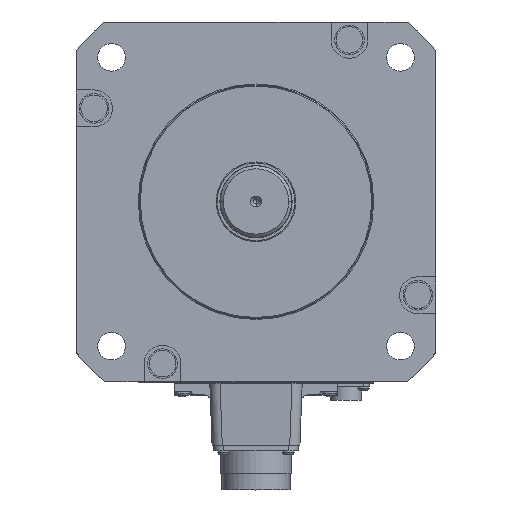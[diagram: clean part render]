
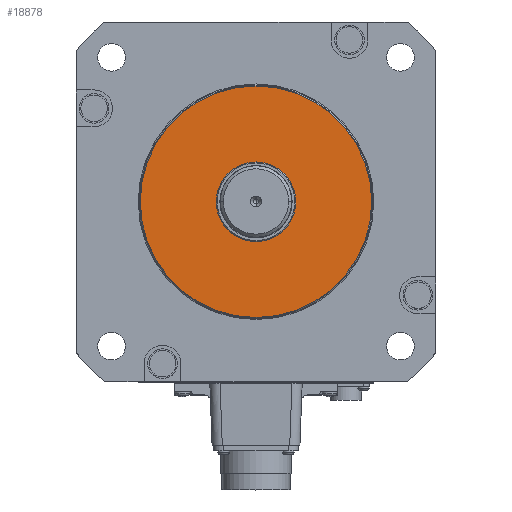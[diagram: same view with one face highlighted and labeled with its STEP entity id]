
A CAD part, top view. The second image highlights one B-rep face of the part: STEP entity #18878.
In plain terms, the highlighted planar face has unit normal (0, 0, 1).
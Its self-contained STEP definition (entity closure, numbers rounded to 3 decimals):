
#6518=CARTESIAN_POINT('',(0.,0.,3.));
#6519=DIRECTION('',(0.,0.,1.));
#6520=DIRECTION('',(-1.,0.,0.));
#6521=AXIS2_PLACEMENT_3D('',#6518,#6519,#6520);
#6523=CARTESIAN_POINT('',(0.,0.,3.));
#6524=DIRECTION('',(0.,0.,1.));
#6525=DIRECTION('',(1.,0.,0.));
#6526=AXIS2_PLACEMENT_3D('',#6523,#6524,#6525);
#6528=CARTESIAN_POINT('',(0.,0.,3.));
#6529=DIRECTION('',(0.,0.,1.));
#6530=DIRECTION('',(1.,0.,0.));
#6531=AXIS2_PLACEMENT_3D('',#6528,#6529,#6530);
#6533=CARTESIAN_POINT('',(0.,0.,3.));
#6534=DIRECTION('',(0.,0.,1.));
#6535=DIRECTION('',(-1.,0.,0.));
#6536=AXIS2_PLACEMENT_3D('',#6533,#6534,#6535);
#8438=CARTESIAN_POINT('',(-56.65,0.,3.));
#8439=CARTESIAN_POINT('',(56.65,0.,3.));
#8440=VERTEX_POINT('',#8438);
#8441=VERTEX_POINT('',#8439);
#8887=CARTESIAN_POINT('',(19.5,0.,3.));
#8888=CARTESIAN_POINT('',(-19.5,0.,3.));
#8889=VERTEX_POINT('',#8887);
#8890=VERTEX_POINT('',#8888);
#18862=CARTESIAN_POINT('',(0.,0.,3.));
#18863=DIRECTION('',(0.,0.,1.));
#18864=DIRECTION('',(1.,0.,0.));
#18865=AXIS2_PLACEMENT_3D('',#18862,#18863,#18864);
#18866=PLANE('',#18865);
#18867=ORIENTED_EDGE('',*,*,#18852,.F.);
#18869=ORIENTED_EDGE('',*,*,#18868,.F.);
#18870=EDGE_LOOP('',(#18867,#18869));
#18871=FACE_OUTER_BOUND('',#18870,.F.);
#18873=ORIENTED_EDGE('',*,*,#18872,.T.);
#18875=ORIENTED_EDGE('',*,*,#18874,.T.);
#18876=EDGE_LOOP('',(#18873,#18875));
#18877=FACE_BOUND('',#18876,.F.);
#18878=ADVANCED_FACE('',(#18871,#18877),#18866,.T.);
#6522=CIRCLE('',#6521,56.65);
#6527=CIRCLE('',#6526,56.65);
#6532=CIRCLE('',#6531,19.5);
#6537=CIRCLE('',#6536,19.5);
#18852=EDGE_CURVE('',#8440,#8441,#6522,.T.);
#18868=EDGE_CURVE('',#8441,#8440,#6527,.T.);
#18872=EDGE_CURVE('',#8889,#8890,#6532,.T.);
#18874=EDGE_CURVE('',#8890,#8889,#6537,.T.);
